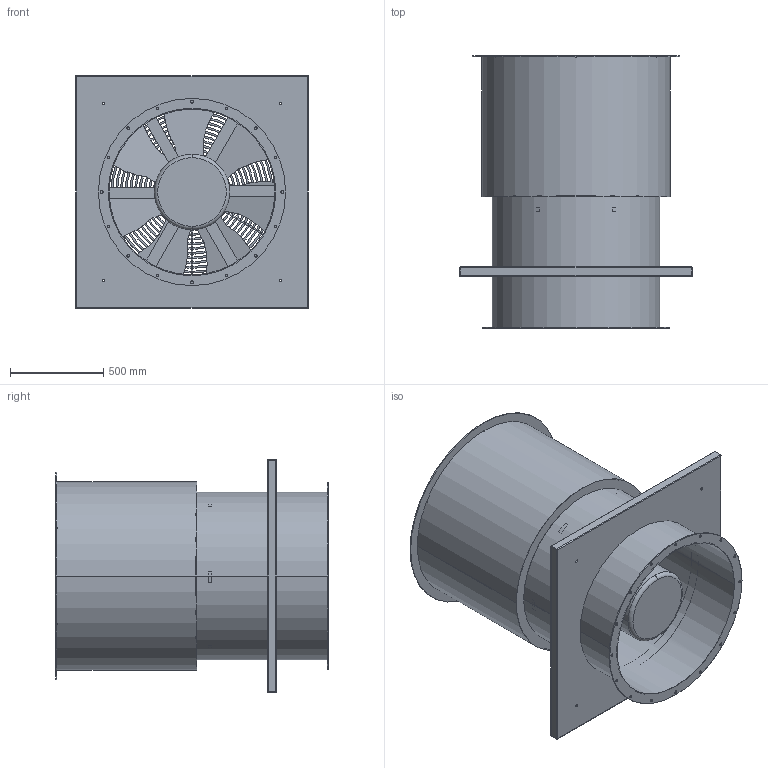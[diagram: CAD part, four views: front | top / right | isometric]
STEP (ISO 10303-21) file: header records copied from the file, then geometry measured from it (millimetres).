
FILE_DESCRIPTION(('STEP AP214'),'1');
FILE_NAME('hght-v-900.stp','2017-09-12T16:25:43',('TraceParts'),('TraceParts S.A.'),'Spatial InterOp 3D',' ',' ');
FILE_SCHEMA(('automotive_design'));
Length unit declared in the file: millimetre
Products named in the file (1): hght-v-900
Bounding box: 1250 x 1463 x 1250 mm (x, y, z)
Volume: 158532654.1 mm3; surface area: 15168172.4 mm2
Topology: 1 solids, 1 shells, 499 faces, 1591 edges, 866 vertices
Faces by surface type: torus 308, cylinder 114, plane 69, sphere 8
Entity records: 45837 total; most frequent: CARTESIAN_POINT 28089, ORIENTED_EDGE 3166, DIRECTION 2787, EDGE_CURVE 1583, AXIS2_PLACEMENT_3D 1172, VERTEX_POINT 866, CIRCLE 628, EDGE_LOOP 569
